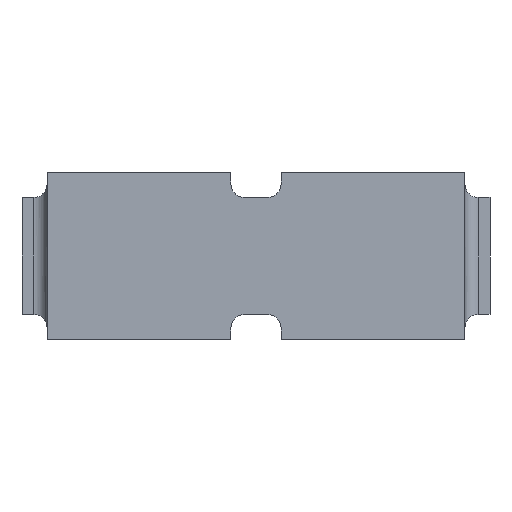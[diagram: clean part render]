
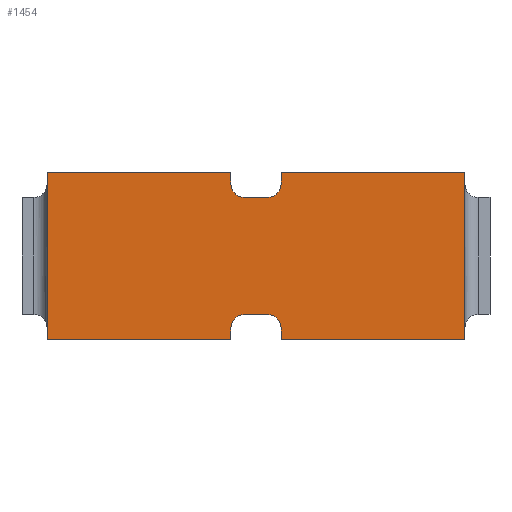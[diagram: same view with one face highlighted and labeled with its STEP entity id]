
A CAD part, left-side view. The second image highlights one B-rep face of the part: STEP entity #1454.
In plain terms, the highlighted planar face has unit normal (-1, 0, 0).
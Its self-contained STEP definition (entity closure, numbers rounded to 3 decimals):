
#36=CIRCLE('',#1549,0.04);
#38=CIRCLE('',#1552,0.04);
#39=CIRCLE('',#1566,0.04);
#40=CIRCLE('',#1567,0.04);
#80=FACE_OUTER_BOUND('',#164,.T.);
#164=EDGE_LOOP('',(#1025,#1026,#1027,#1028,#1029,#1030,#1031,#1032,#1033,
#1034,#1035,#1036,#1037,#1038,#1039,#1040));
#239=LINE('',#2070,#425);
#245=LINE('',#2091,#431);
#256=LINE('',#2113,#442);
#260=LINE('',#2120,#446);
#262=LINE('',#2123,#448);
#266=LINE('',#2133,#452);
#278=LINE('',#2157,#464);
#280=LINE('',#2161,#466);
#281=LINE('',#2163,#467);
#282=LINE('',#2166,#468);
#283=LINE('',#2168,#469);
#284=LINE('',#2171,#470);
#425=VECTOR('',#1662,10.);
#431=VECTOR('',#1682,10.);
#442=VECTOR('',#1695,10.);
#446=VECTOR('',#1705,10.);
#448=VECTOR('',#1709,10.);
#452=VECTOR('',#1719,10.);
#464=VECTOR('',#1737,10.);
#466=VECTOR('',#1741,10.);
#467=VECTOR('',#1742,10.);
#468=VECTOR('',#1745,10.);
#469=VECTOR('',#1746,10.);
#470=VECTOR('',#1749,10.);
#611=VERTEX_POINT('',#2067);
#612=VERTEX_POINT('',#2069);
#614=VERTEX_POINT('',#2075);
#617=VERTEX_POINT('',#2082);
#618=VERTEX_POINT('',#2084);
#620=VERTEX_POINT('',#2090);
#624=VERTEX_POINT('',#2099);
#630=VERTEX_POINT('',#2111);
#632=VERTEX_POINT('',#2130);
#633=VERTEX_POINT('',#2132);
#642=VERTEX_POINT('',#2156);
#643=VERTEX_POINT('',#2160);
#644=VERTEX_POINT('',#2162);
#645=VERTEX_POINT('',#2164);
#646=VERTEX_POINT('',#2167);
#647=VERTEX_POINT('',#2169);
#747=EDGE_CURVE('',#612,#611,#239,.T.);
#750=EDGE_CURVE('',#614,#612,#36,.T.);
#754=EDGE_CURVE('',#618,#617,#38,.T.);
#757=EDGE_CURVE('',#620,#618,#245,.T.);
#768=EDGE_CURVE('',#624,#630,#256,.T.);
#772=EDGE_CURVE('',#620,#630,#260,.T.);
#774=EDGE_CURVE('',#624,#611,#262,.T.);
#778=EDGE_CURVE('',#632,#633,#266,.T.);
#790=EDGE_CURVE('',#642,#633,#278,.T.);
#792=EDGE_CURVE('',#632,#643,#280,.T.);
#793=EDGE_CURVE('',#644,#643,#281,.T.);
#794=EDGE_CURVE('',#645,#644,#39,.T.);
#795=EDGE_CURVE('',#614,#645,#282,.T.);
#796=EDGE_CURVE('',#646,#617,#283,.T.);
#797=EDGE_CURVE('',#647,#646,#40,.T.);
#798=EDGE_CURVE('',#642,#647,#284,.T.);
#1025=ORIENTED_EDGE('',*,*,#792,.T.);
#1026=ORIENTED_EDGE('',*,*,#793,.F.);
#1027=ORIENTED_EDGE('',*,*,#794,.F.);
#1028=ORIENTED_EDGE('',*,*,#795,.F.);
#1029=ORIENTED_EDGE('',*,*,#750,.T.);
#1030=ORIENTED_EDGE('',*,*,#747,.T.);
#1031=ORIENTED_EDGE('',*,*,#774,.F.);
#1032=ORIENTED_EDGE('',*,*,#768,.T.);
#1033=ORIENTED_EDGE('',*,*,#772,.F.);
#1034=ORIENTED_EDGE('',*,*,#757,.T.);
#1035=ORIENTED_EDGE('',*,*,#754,.T.);
#1036=ORIENTED_EDGE('',*,*,#796,.F.);
#1037=ORIENTED_EDGE('',*,*,#797,.F.);
#1038=ORIENTED_EDGE('',*,*,#798,.F.);
#1039=ORIENTED_EDGE('',*,*,#790,.T.);
#1040=ORIENTED_EDGE('',*,*,#778,.F.);
#1386=PLANE('',#1565);
#1454=ADVANCED_FACE('',(#80),#1386,.T.);
#1549=AXIS2_PLACEMENT_3D('',#2076,#1668,#1669);
#1552=AXIS2_PLACEMENT_3D('',#2085,#1676,#1677);
#1565=AXIS2_PLACEMENT_3D('',#2159,#1739,#1740);
#1566=AXIS2_PLACEMENT_3D('',#2165,#1743,#1744);
#1567=AXIS2_PLACEMENT_3D('',#2170,#1747,#1748);
#1662=DIRECTION('',(0.,0.,-1.));
#1668=DIRECTION('center_axis',(1.,0.,0.));
#1669=DIRECTION('ref_axis',(0.,-1.,0.));
#1676=DIRECTION('center_axis',(1.,0.,0.));
#1677=DIRECTION('ref_axis',(0.,0.,-1.));
#1682=DIRECTION('',(0.,0.,-1.));
#1695=DIRECTION('',(0.,0.,1.));
#1705=DIRECTION('',(0.,-1.,0.));
#1709=DIRECTION('',(0.,1.,0.));
#1719=DIRECTION('',(0.,0.,1.));
#1737=DIRECTION('',(0.,1.,0.));
#1739=DIRECTION('center_axis',(-1.,0.,0.));
#1740=DIRECTION('ref_axis',(0.,0.,1.));
#1741=DIRECTION('',(0.,-1.,0.));
#1742=DIRECTION('',(0.,0.,-1.));
#1743=DIRECTION('center_axis',(-1.,0.,0.));
#1744=DIRECTION('ref_axis',(0.,1.,0.));
#1745=DIRECTION('',(0.,1.,0.));
#1746=DIRECTION('',(0.,-1.,0.));
#1747=DIRECTION('center_axis',(-1.,0.,0.));
#1748=DIRECTION('ref_axis',(0.,0.,
-1.));
#1749=DIRECTION('',(0.,0.,-1.));
#2067=CARTESIAN_POINT('',(0.,0.625,0.));
#2069=CARTESIAN_POINT('',(0.,0.625,0.035));
#2070=CARTESIAN_POINT('',(0.,0.625,0.035));
#2075=CARTESIAN_POINT('',(0.,0.665,0.075));
#2076=CARTESIAN_POINT('Origin',(0.,0.665,0.035));
#2082=CARTESIAN_POINT('',(0.,0.665,0.425));
#2084=CARTESIAN_POINT('',(0.,0.625,0.465));
#2085=CARTESIAN_POINT('Origin',(0.,0.665,0.465));
#2090=CARTESIAN_POINT('',(0.,0.625,0.5));
#2091=CARTESIAN_POINT('',(0.,0.625,0.5));
#2099=CARTESIAN_POINT('',(0.,0.075,0.));
#2111=CARTESIAN_POINT('',(0.,0.075,0.5));
#2113=CARTESIAN_POINT('',(0.,0.075,0.));
#2120=CARTESIAN_POINT('',(0.,0.625,0.5));
#2123=CARTESIAN_POINT('',(0.,0.075,0.));
#2130=CARTESIAN_POINT('',(0.,1.325,0.));
#2132=CARTESIAN_POINT('',(0.,1.325,0.5));
#2133=CARTESIAN_POINT('',(0.,1.325,0.));
#2156=CARTESIAN_POINT('',(0.,0.775,0.5));
#2157=CARTESIAN_POINT('',(0.,0.775,0.5));
#2159=CARTESIAN_POINT('Origin',(0.,1.326,0.25));
#2160=CARTESIAN_POINT('',(0.,0.775,0.));
#2161=CARTESIAN_POINT('',(0.,1.325,0.));
#2162=CARTESIAN_POINT('',(0.,0.775,0.035));
#2163=CARTESIAN_POINT('',(0.,0.775,0.035));
#2164=CARTESIAN_POINT('',(0.,0.735,0.075));
#2165=CARTESIAN_POINT('Origin',(0.,0.735,
0.035));
#2166=CARTESIAN_POINT('',(0.,0.665,0.075));
#2167=CARTESIAN_POINT('',(0.,0.735,0.425));
#2168=CARTESIAN_POINT('',(0.,0.735,0.425));
#2169=CARTESIAN_POINT('',(0.,0.775,0.465));
#2170=CARTESIAN_POINT('Origin',(0.,0.735,
0.465));
#2171=CARTESIAN_POINT('',(0.,0.775,0.5));
